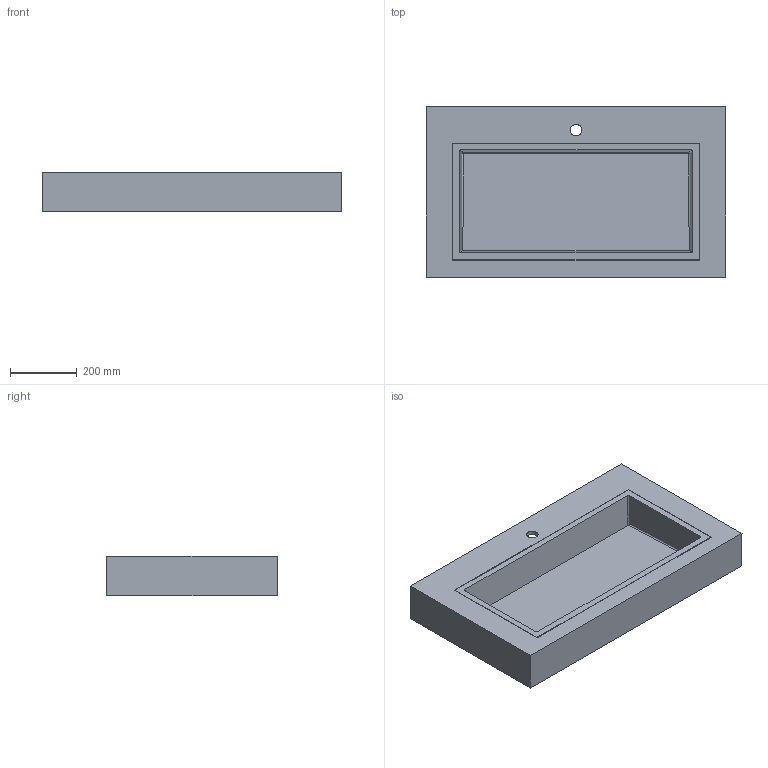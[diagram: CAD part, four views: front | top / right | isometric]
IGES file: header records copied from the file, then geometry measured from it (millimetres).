
Start section: Data from Parasolid IGES Translator 19.0.9, Copyright(c) 2006 Siemens PL M Software. All Rights Reserved.
Global section: file name: noorth-top-H 12 D 51,3 W 90_6551.igs; native system: By Siemens PLM Incorporated; preprocessor: XPlus GENERIC/IGES 19.0.9; author: Noname; organization: Noname; date: 20200603.095153; units: metre
Bounding box: 900 x 512 x 120 mm (x, y, z)
Volume: 10104397.7 mm3; surface area: 1805504.7 mm2
Topology: 2 solids, 2 shells, 105 faces, 252 edges, 148 vertices
Faces by surface type: plane 43, cylinder 34, bspline 28
Full cylindrical faces by diameter (mm): 34.9 x1
